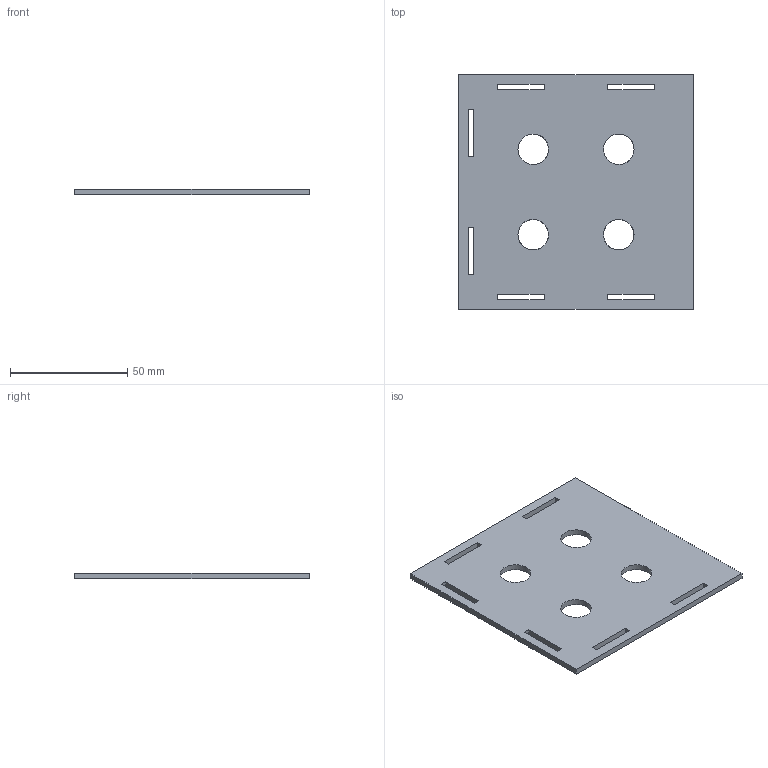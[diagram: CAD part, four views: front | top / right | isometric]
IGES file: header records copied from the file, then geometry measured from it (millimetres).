
Global section: file name: 1.Frontal; native system: Autodesk Inventor 2022; preprocessor: unknown; author: Daniel; date: 20220531.021716; units: millimetre
Bounding box: 100 x 100 x 2.5 mm (x, y, z)
Volume: 22919.9 mm3; surface area: 20422.4 mm2
Topology: 1 solids, 1 shells, 34 faces, 100 edges, 68 vertices
Faces by surface type: bspline 34
